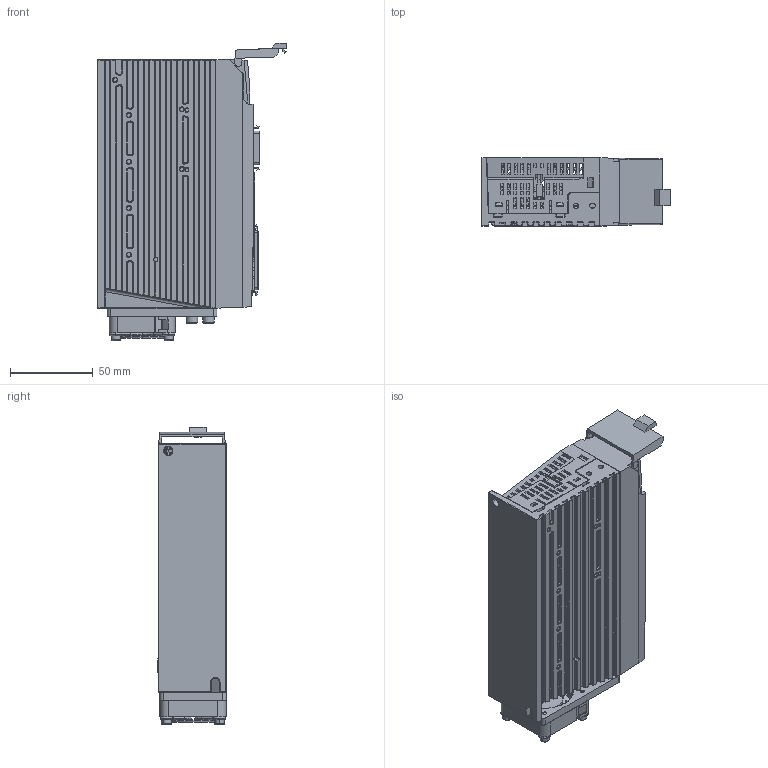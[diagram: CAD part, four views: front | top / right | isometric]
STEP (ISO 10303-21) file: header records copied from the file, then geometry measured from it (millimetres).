
FILE_DESCRIPTION (( 'STEP AP214' ), '1' );
FILE_NAME ('M2DC 湍瑞圮201712050515.STEP', '2018-06-25T01:12:08', ( '' ), ( '' ), 'SwSTEP 2.0', 'SolidWorks 2015', '' );
FILE_SCHEMA (( 'AUTOMOTIVE_DESIGN' ));
Length unit declared in the file: millimetre
Products named in the file (1): M2DC 湍瑞圮201712050515
Bounding box: 114.15 x 41.2 x 179.34 mm (x, y, z)
Surface area: 119899.2 mm2 (no closed solid volume)
Topology: 0 solids, 85 shells, 2330 faces, 8868 edges, 6443 vertices
Faces by surface type: plane 1348, cylinder 601, bspline 269, torus 70, cone 42
Entity records: 126463 total; most frequent: CARTESIAN_POINT 28456, DIRECTION 14512, ORIENTED_EDGE 13609, EDGE_CURVE 8807, VERTEX_POINT 6443, VECTOR 5940, LINE 5940, AXIS2_PLACEMENT_3D 4286
